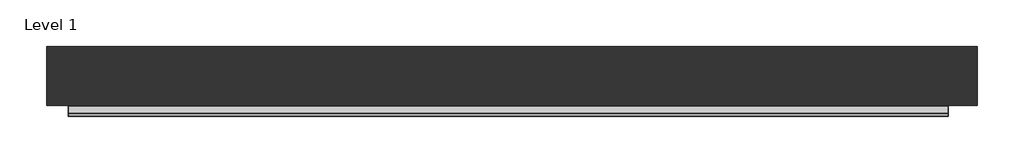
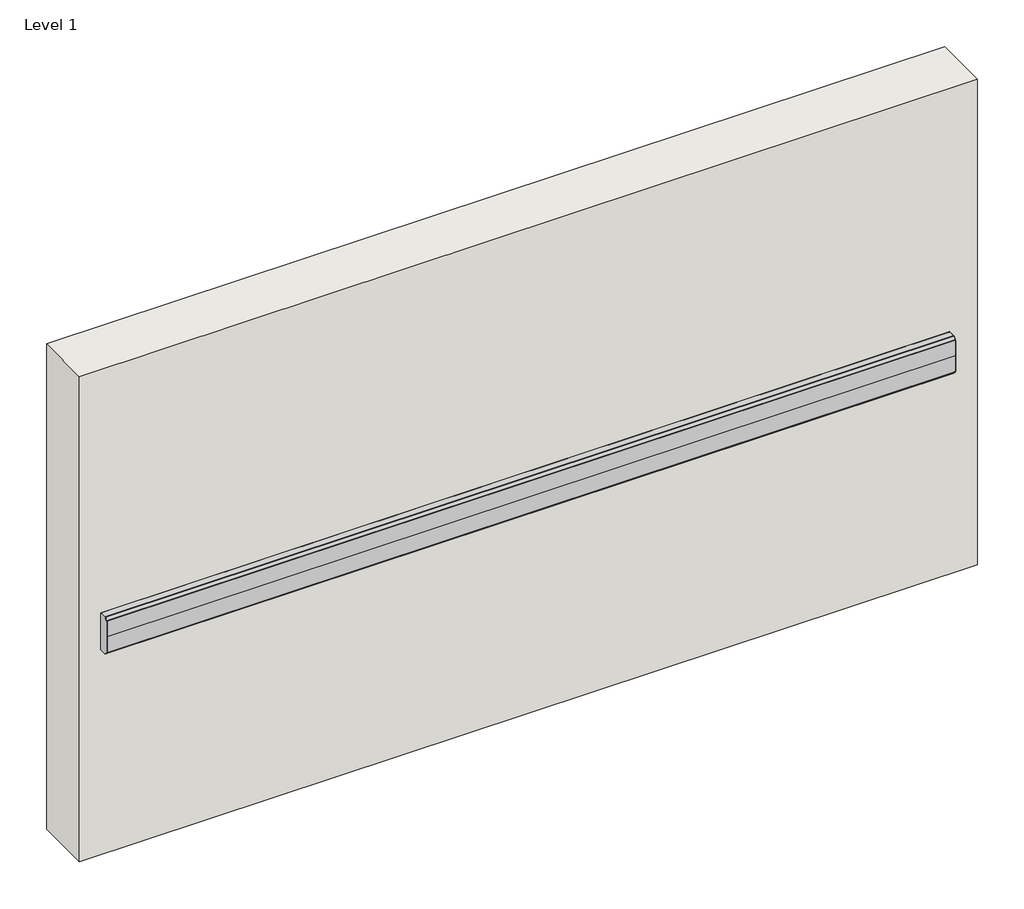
# One storey: 1 railing, 1 wall.
"""IFC4 building model written with IfcOpenShell, lengths in millimetres."""

from ifc_helpers import new_model, si_unit, origin, origin_with_axes, place, context, project, spatial, polyline, outline, extrude, transform, mapped, element, save
from components import railing_770f9589

model = new_model("IFC4")

# Units and contexts
model_context = context("Model", 3, world=origin())
ifc_project = project(units=[si_unit("LENGTHUNIT", "METRE", prefix="MILLI")], contexts=[model_context])

# Site, building, storey
site = spatial("IfcSite", under=ifc_project)
building = spatial("IfcBuilding", under=site)
storey = spatial("IfcBuildingStorey", under=building, Name="Level 1", Elevation=0.0)

# Railing
placement = place(None, origin())
railing_shape = railing_770f9589(model_context)
element("IfcRailing", 1, ObjectType="Wall Guard-InPro-31SS", at=placement, inside=storey, context=model_context, shape_type="MappedRepresentation", body=[
    mapped(railing_shape, transform((0.0, 0.0, 0.0), x_axis=(1.0, 0.0, 0.0), y_axis=(0.0, 1.0, 0.0), z_axis=(0.0, 0.0, 1.0))),
])

# Wall
element("IfcWall", 2, ObjectType="Wall 1", at=placement, inside=storey, context=model_context, shape_type="SweptSolid", body=[
    extrude(outline(polyline([(-3307.7119023, 6803.1093535), (-6508.1119023, 6803.1093535), (-6508.1119023, 7006.3093535), (-3307.7119023, 7006.3093535), (-3307.7119023, 6803.1093535)])), origin_with_axes(), (0.0, 0.0, 1.0), 1828.8),
])

save(model, "model.ifc")
